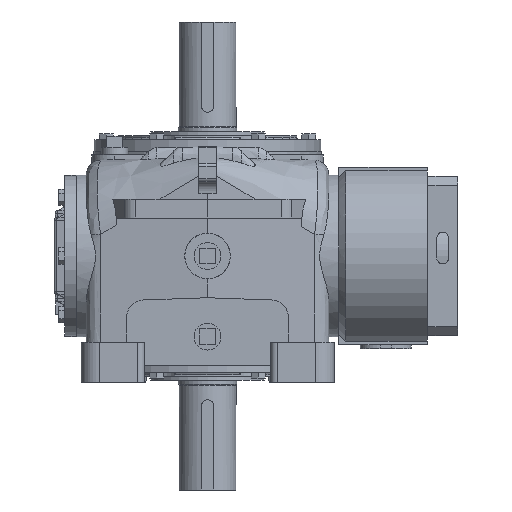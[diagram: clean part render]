
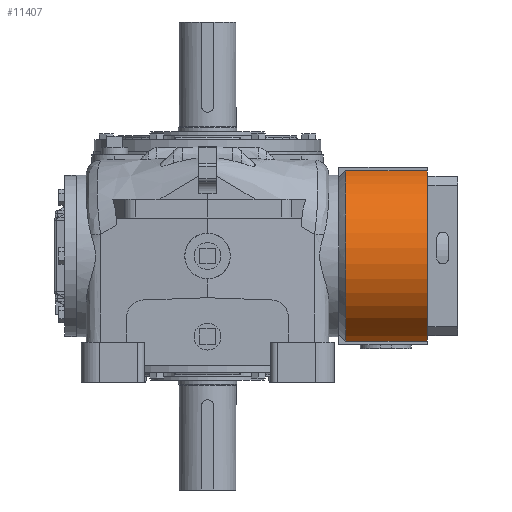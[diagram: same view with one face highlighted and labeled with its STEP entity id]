
A CAD part, front view. The second image highlights one B-rep face of the part: STEP entity #11407.
In plain terms, the highlighted cylindrical face has radius 88.9 mm (diameter 177.8 mm), a partial arc.
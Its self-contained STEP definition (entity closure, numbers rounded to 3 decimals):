
#1350=LINE('',#25010,#2253);
#1351=LINE('',#25015,#2254);
#2253=VECTOR('',#15934,1000.);
#2254=VECTOR('',#15937,1000.);
#2541=CYLINDRICAL_SURFACE('',#13557,88.9);
#5232=ORIENTED_EDGE('',*,*,#7169,.F.);
#5233=ORIENTED_EDGE('',*,*,#7170,.F.);
#5234=ORIENTED_EDGE('',*,*,#7171,.T.);
#5235=ORIENTED_EDGE('',*,*,#7172,.T.);
#7169=EDGE_CURVE('',#8360,#8361,#1350,.F.);
#7170=EDGE_CURVE('',#8362,#8360,#8769,.T.);
#7171=EDGE_CURVE('',#8362,#8363,#1351,.F.);
#7172=EDGE_CURVE('',#8363,#8361,#8770,.T.);
#8360=VERTEX_POINT('',#25011);
#8361=VERTEX_POINT('',#25012);
#8362=VERTEX_POINT('',#25014);
#8363=VERTEX_POINT('',#25016);
#8769=CIRCLE('',#13558,88.9);
#8770=CIRCLE('',#13559,88.9);
#9474=EDGE_LOOP('',(#5232,#5233,#5234,#5235));
#10295=FACE_BOUND('',#9474,.T.);
#11407=ADVANCED_FACE('',(#10295),#2541,.T.);
#13557=AXIS2_PLACEMENT_3D('',#25009,#15932,#15933);
#13558=AXIS2_PLACEMENT_3D('',#25013,#15935,#15936);
#13559=AXIS2_PLACEMENT_3D('',#25017,#15938,#15939);
#15932=DIRECTION('',(-1.,0.,0.));
#15933=DIRECTION('',(0.,0.,1.));
#15934=DIRECTION('',(-1.,0.,0.));
#15935=DIRECTION('',(-1.,0.,0.));
#15936=DIRECTION('',(0.,0.,1.));
#15937=DIRECTION('',(-1.,0.,0.));
#15938=DIRECTION('',(-1.,0.,0.));
#15939=DIRECTION('',(0.,0.,1.));
#25009=CARTESIAN_POINT('',(-60.008,0.,0.));
#25010=CARTESIAN_POINT('',(-60.008,-24.606,85.427));
#25011=CARTESIAN_POINT('',(6.765,-24.606,85.427));
#25012=CARTESIAN_POINT('',(89.01,-24.606,85.427));
#25013=CARTESIAN_POINT('',(6.765,0.,0.));
#25014=CARTESIAN_POINT('',(6.765,-24.606,-85.427));
#25015=CARTESIAN_POINT('',(-60.008,-24.606,-85.427));
#25016=CARTESIAN_POINT('',(89.01,-24.606,-85.427));
#25017=CARTESIAN_POINT('',(89.01,0.,0.));
